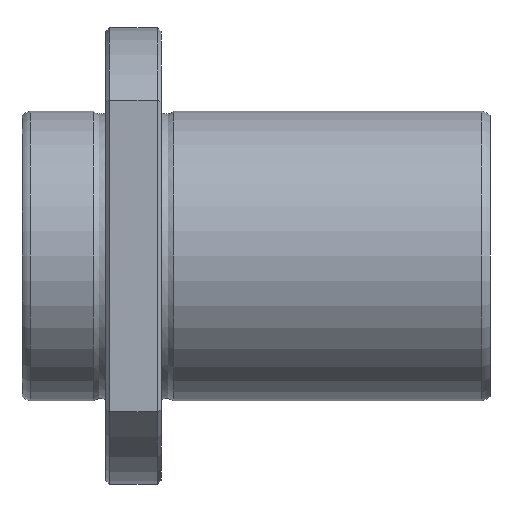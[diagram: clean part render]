
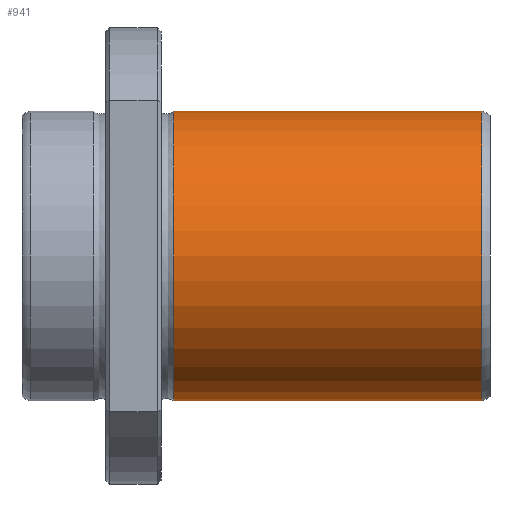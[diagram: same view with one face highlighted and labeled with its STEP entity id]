
A CAD part, front view. The second image highlights one B-rep face of the part: STEP entity #941.
In plain terms, the highlighted cylindrical face has radius 26 mm (diameter 52 mm), a full revolution.
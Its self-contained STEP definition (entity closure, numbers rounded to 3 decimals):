
#907=CARTESIAN_POINT('',(82.502,0.0,26.));
#908=VERTEX_POINT('',#907);
#909=CARTESIAN_POINT('',(82.502,0.0,0.0));
#910=DIRECTION('',(-1.0,0.0,0.0));
#911=DIRECTION('',(0.0,0.0,1.0));
#912=AXIS2_PLACEMENT_3D('',#909,#910,#911);
#913=CIRCLE('',#912,26.);
#914=EDGE_CURVE('',#908,#908,#913,.T.);
#922=CARTESIAN_POINT('',(54.862,0.0,0.0));
#923=DIRECTION('',(-1.0,0.0,0.0));
#924=DIRECTION('',(0.0,0.0,1.0));
#925=AXIS2_PLACEMENT_3D('',#922,#923,#924);
#926=CYLINDRICAL_SURFACE('',#925,26.);
#927=CARTESIAN_POINT('',(27.223,0.0,26.));
#928=VERTEX_POINT('',#927);
#929=CARTESIAN_POINT('',(27.223,0.0,0.0));
#930=DIRECTION('',(-1.0,0.0,0.0));
#931=DIRECTION('',(0.0,0.0,1.0));
#932=AXIS2_PLACEMENT_3D('',#929,#930,#931);
#933=CIRCLE('',#932,26.);
#934=EDGE_CURVE('',#928,#928,#933,.T.);
#935=ORIENTED_EDGE('',*,*,#934,.F.);
#936=EDGE_LOOP('',(#935));
#937=FACE_OUTER_BOUND('',#936,.T.);
#938=ORIENTED_EDGE('',*,*,#914,.T.);
#939=EDGE_LOOP('',(#938));
#940=FACE_BOUND('',#939,.T.);
#941=ADVANCED_FACE('',(#937,#940),#926,.T.);
